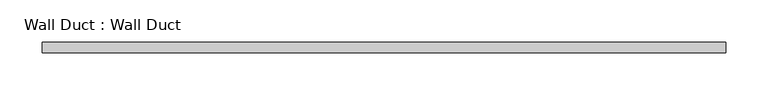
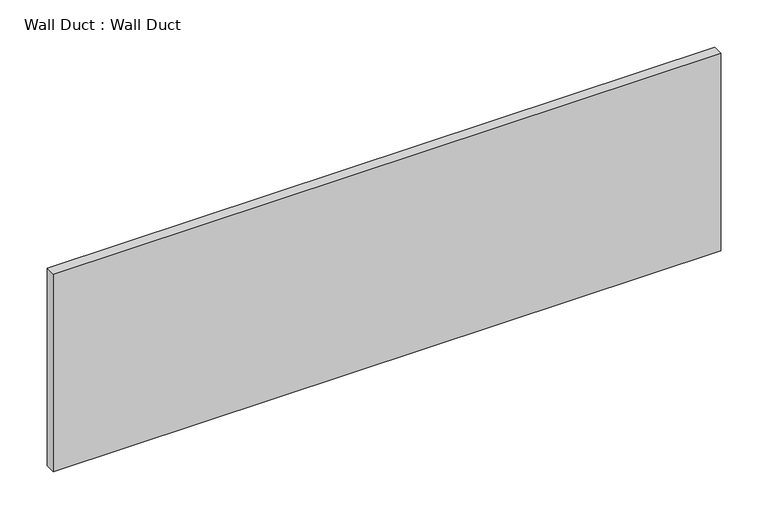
"""IFC4 building model written with IfcOpenShell, lengths in millimetres: proxy geometry, Wall Duct : Wall Duct."""

from ifc_helpers import new_model, si_unit, origin, origin_with_axes, place, context, project, spatial, polyline, outline, extrude, source, transform, mapped, element, save


def wall_duct_wall_duct_0e01770b(model_context):
    return source(origin(), model_context, "Body", "SweptSolid", [
        extrude(outline(polyline([(406.4, 0.0), (406.4, -12.7), (-406.4, -12.7), (-406.4, 0.0), (406.4, 0.0)])), origin_with_axes(), (0.0, 0.0, 1.0), 254.0),
    ])


if __name__ == "__main__":
    model = new_model("IFC4")
    model_context = context("Model", 3, world=origin())
    ifc_project = project(units=[si_unit("LENGTHUNIT", "METRE", prefix="MILLI")], contexts=[model_context])
    site = spatial("IfcSite", under=ifc_project)
    building = spatial("IfcBuilding", under=site)
    placement = place(None, origin())
    wall_duct_wall_duct_shape = wall_duct_wall_duct_0e01770b(model_context)
    element("IfcBuildingElementProxy", 1, Name="Wall Duct : Wall Duct", ObjectType="Wall Duct : Wall Duct", at=placement, inside=building, context=model_context, shape_type="MappedRepresentation", body=[
        mapped(wall_duct_wall_duct_shape, transform((0.0, 0.0, 0.0), x_axis=(1.0, 0.0, 0.0), y_axis=(0.0, 1.0, 0.0), z_axis=(0.0, 0.0, 1.0))),
    ])
    save(model, "model.ifc")
